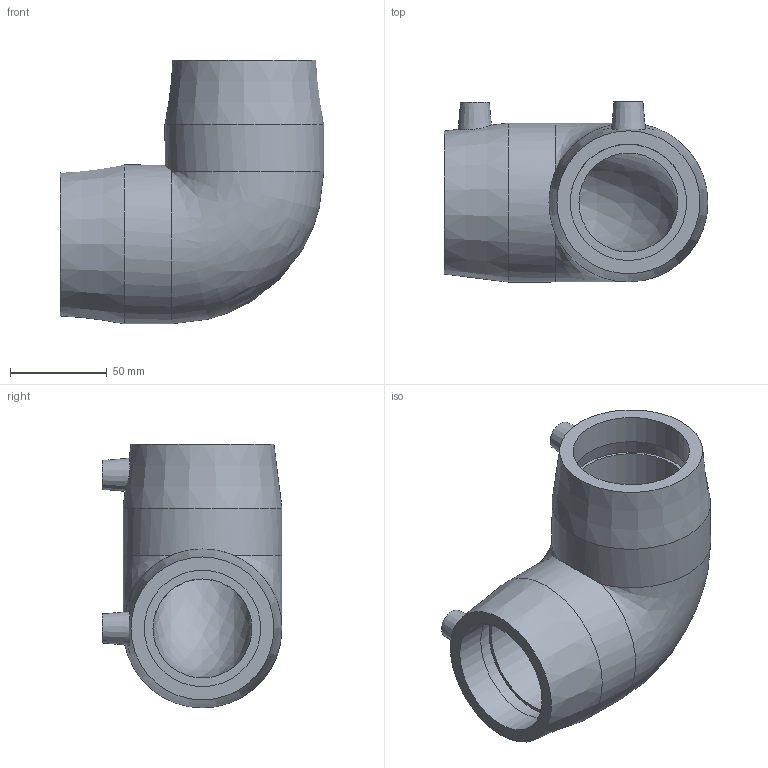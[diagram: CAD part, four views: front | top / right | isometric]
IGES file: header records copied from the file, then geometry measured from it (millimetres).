
Global section: file name: 5905B003020.ipt; native system: Autodesk Inventor 2019; preprocessor: unknown; author: KIM; date: 20210830.100958; units: inch
Bounding box: 136.18 x 92.84 x 136.18 mm (x, y, z)
Volume: 445194.1 mm3; surface area: 82984.8 mm2
Topology: 1 solids, 1 shells, 30 faces, 68 edges, 46 vertices
Faces by surface type: plane 12, revolution 9, cylinder 4, cone 4, bspline 1
Full cylindrical faces by diameter (mm): 4 x2, 82.042 x2
